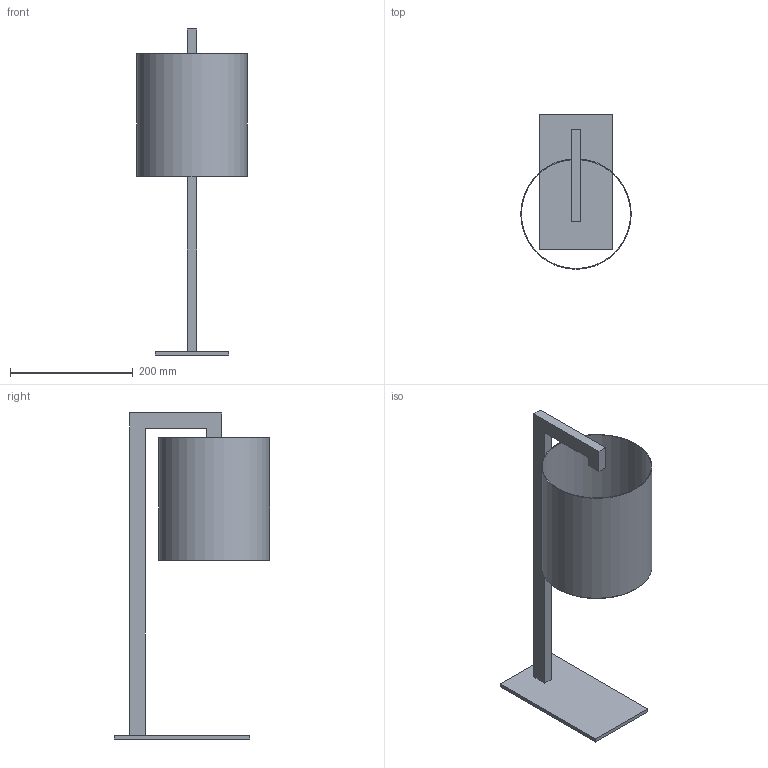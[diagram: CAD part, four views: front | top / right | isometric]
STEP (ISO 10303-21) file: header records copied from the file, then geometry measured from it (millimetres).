
FILE_DESCRIPTION( ( 'STEP AP203' ), '1' );
FILE_NAME( '//srvbf/BF Disegni/ASTRO/ASTRO-L Lumetto 3D.stp', '2020-10-16T08:43:13', ( ' ' ), ( ' ' ), 'XStep 1.0', ' ', ' ' );
FILE_SCHEMA( ( 'CONFIG_CONTROL_DESIGN) ( )' ) );
Length unit declared in the file: metre
Products named in the file (2): 1; 2
Bounding box: 180 x 252.5 x 531 mm (x, y, z)
Volume: 520244 mm3; surface area: 336142.7 mm2
Topology: 2 solids, 2 shells, 19 faces, 42 edges, 28 vertices
Faces by surface type: plane 17, cylinder 2
Full cylindrical faces by diameter (mm): 178 x1, 180 x1
Entity records: 602 total; most frequent: CARTESIAN_POINT 89, DIRECTION 86, ORIENTED_EDGE 80, EDGE_CURVE 40, LINE 36, VECTOR 36, VERTEX_POINT 28, AXIS2_PLACEMENT_3D 25
